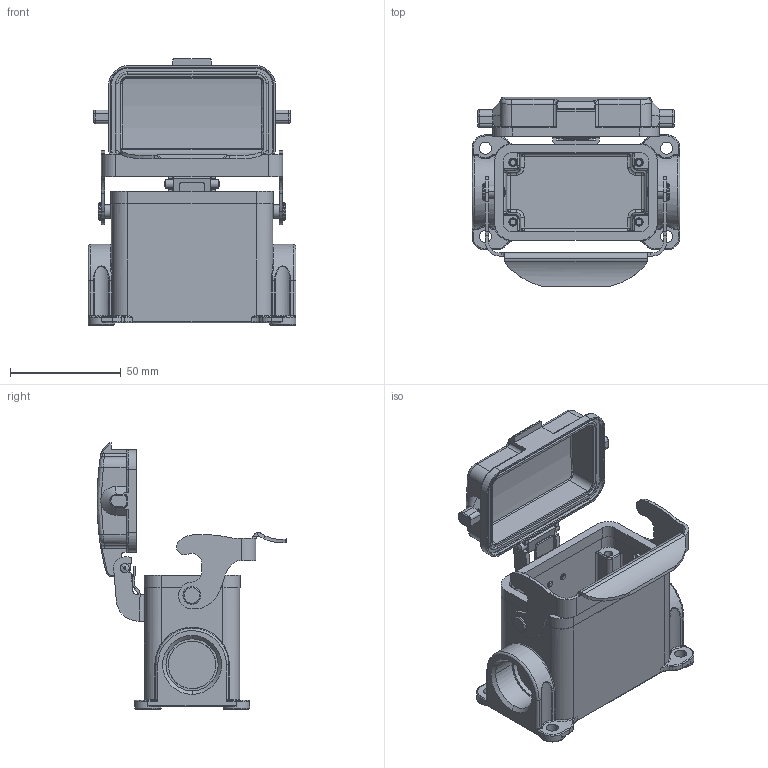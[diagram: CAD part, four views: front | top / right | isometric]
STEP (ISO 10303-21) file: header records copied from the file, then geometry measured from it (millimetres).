
FILE_DESCRIPTION (( 'STEP AP203' ), '1' );
FILE_NAME ('H10B-SDR-LB-M20&25.STEP', '2020-11-21T05:16:22', ( '' ), ( '' ), 'SwSTEP 2.0', 'SolidWorks 2016', '' );
FILE_SCHEMA (( 'CONFIG_CONTROL_DESIGN' ));
Length unit declared in the file: millimetre
Products named in the file (10): baohugailuosi; maoding; spring; 10bbuxiugangdankou; H10-SDR-BO 菁釱 8-5; 10bmifengquan; 0000101120; baohugai-lianjiekou_5; chaxiao; H10B-SDR-LB-M20&25
Assembly tree (11 placements, depth 2):
  H10B-SDR-LB-M20&25
    10bmifengquan
    chaxiao
    10bbuxiugangdankou
    baohugai-lianjiekou_5
    spring
    maoding  x2
    baohugailuosi  x2
    0000101120
    H10-SDR-BO 菁釱 8-5
Bounding box: 94 x 85.85 x 120.4 mm (x, y, z)
Volume: 96579.6 mm3; surface area: 64735.7 mm2
Topology: 11 solids, 11 shells, 1119 faces, 2727 edges, 1659 vertices
Faces by surface type: cylinder 493, bspline 282, plane 273, cone 71
Entity records: 91606 total; most frequent: CARTESIAN_POINT 68483, ORIENTED_EDGE 4928, DIRECTION 4235, EDGE_CURVE 2464, AXIS2_PLACEMENT_3D 1591, VERTEX_POINT 1499, EDGE_LOOP 1063, LINE 1053
